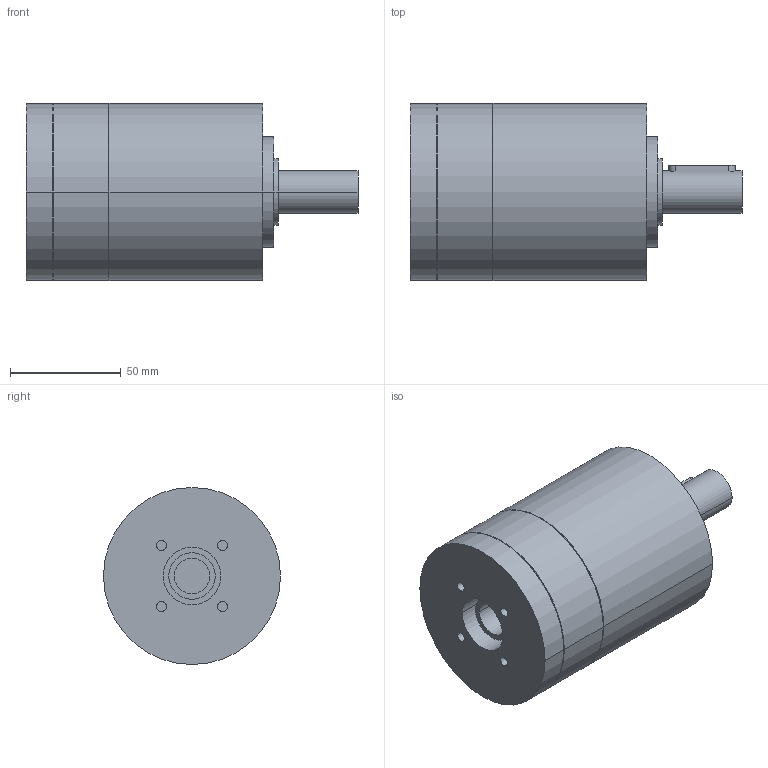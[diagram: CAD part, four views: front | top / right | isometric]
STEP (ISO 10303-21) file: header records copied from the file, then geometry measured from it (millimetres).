
FILE_DESCRIPTION(('CoCreate Modeling STEP Export'),'2;1');
FILE_NAME('GPR100_ig-3-4-5-6_19_B14_16_P09.stp','2014-08-26T10:08:08',(''),(''),'CoCreate Modeling STEP processor for AP214 (Solid Model)','CoCreate Modeling 16.00C 25-Feb-2009 (C) Parametric Technology GmbH','');
FILE_SCHEMA(('AUTOMOTIVE_DESIGN { 1 0 10303 214 1 1 1 1 }'));
Length unit declared in the file: millimetre
Products named in the file (2): GPR100_ig-3-4-5-6_19_B14_16_P09
Assembly tree (1 placements, depth 2):
  GPR100_ig-3-4-5-6_19_B14_16_P09
    GPR100_ig-3-4-5-6_19_B14_16_P09
Bounding box: 150 x 80 x 80 mm (x, y, z)
Volume: 544751.3 mm3; surface area: 46293.4 mm2
Topology: 1 solids, 1 shells, 77 faces, 197 edges, 141 vertices
Faces by surface type: cylinder 46, plane 25, cone 6
Entity records: 1971 total; most frequent: ORIENTED_EDGE 390, CARTESIAN_POINT 361, DIRECTION 254, EDGE_CURVE 195, VERTEX_POINT 141, AXIS2_PLACEMENT_3D 98, EDGE_LOOP 98, FACE_OUTER_BOUND 77
